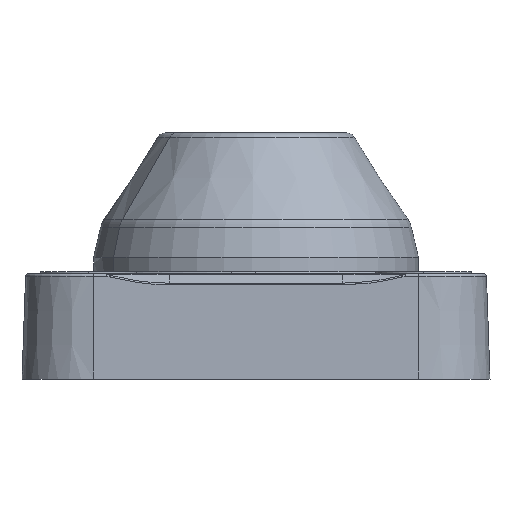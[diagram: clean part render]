
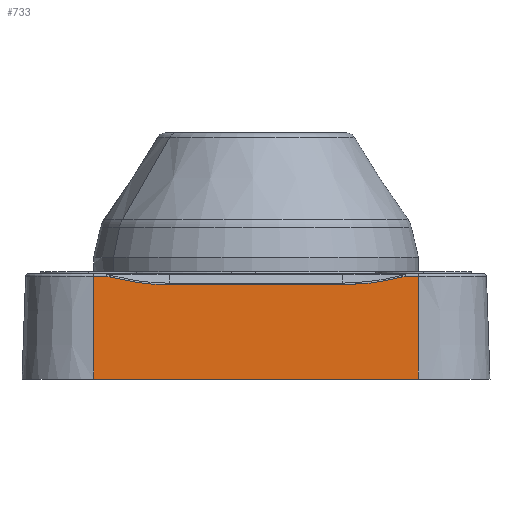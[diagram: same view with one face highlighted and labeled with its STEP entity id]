
A CAD part, left-side view. The second image highlights one B-rep face of the part: STEP entity #733.
In plain terms, the highlighted planar face has unit normal (-0.999, 0, 0.035).
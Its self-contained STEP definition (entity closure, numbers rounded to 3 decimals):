
#133=CARTESIAN_POINT('Vertex',(-48.965,-34.,1.)) ;
#136=CARTESIAN_POINT('Line Origine',(-48.965,0.,1.)) ;
#140=CARTESIAN_POINT('Vertex',(-48.965,34.,1.)) ;
#635=CARTESIAN_POINT('Vertex',(-48.214,-34.,22.517)) ;
#638=CARTESIAN_POINT('Line Origine',(-17491.248,-34.,-499480.642)) ;
#650=CARTESIAN_POINT('Axis2P3D Location',(-49.,0.,0.)) ;
#655=CARTESIAN_POINT('Line Origine',(-48.214,-32.618,22.517)) ;
#659=CARTESIAN_POINT('Vertex',(-48.214,-31.236,22.517)) ;
#663=CARTESIAN_POINT('Control Point',(-48.214,-31.236,22.517)) ;
#664=CARTESIAN_POINT('Control Point',(-48.215,-31.087,22.487)) ;
#665=CARTESIAN_POINT('Control Point',(-48.216,-30.938,22.455)) ;
#666=CARTESIAN_POINT('Control Point',(-48.217,-30.789,22.42)) ;
#667=CARTESIAN_POINT('Control Point',(-48.218,-30.641,22.384)) ;
#668=CARTESIAN_POINT('Control Point',(-48.22,-30.493,22.346)) ;
#669=CARTESIAN_POINT('Vertex',(-48.22,-30.493,22.346)) ;
#673=CARTESIAN_POINT('Control Point',(-48.276,-18.101,20.731)) ;
#674=CARTESIAN_POINT('Control Point',(-48.276,-20.602,20.731)) ;
#675=CARTESIAN_POINT('Control Point',(-48.27,-23.102,20.898)) ;
#676=CARTESIAN_POINT('Control Point',(-48.259,-25.589,21.233)) ;
#677=CARTESIAN_POINT('Control Point',(-48.241,-28.055,21.721)) ;
#678=CARTESIAN_POINT('Control Point',(-48.22,-30.493,22.346)) ;
#679=CARTESIAN_POINT('Vertex',(-48.276,-18.101,20.731)) ;
#682=CARTESIAN_POINT('Line Origine',(-48.276,0.,20.731)) ;
#686=CARTESIAN_POINT('Vertex',(-48.276,18.101,20.731)) ;
#690=CARTESIAN_POINT('Control Point',(-48.22,30.493,22.346)) ;
#691=CARTESIAN_POINT('Control Point',(-48.241,28.055,21.721)) ;
#692=CARTESIAN_POINT('Control Point',(-48.259,25.589,21.233)) ;
#693=CARTESIAN_POINT('Control Point',(-48.27,23.102,20.898)) ;
#694=CARTESIAN_POINT('Control Point',(-48.276,20.602,20.731)) ;
#695=CARTESIAN_POINT('Control Point',(-48.276,18.101,20.731)) ;
#696=CARTESIAN_POINT('Vertex',(-48.22,30.493,22.346)) ;
#700=CARTESIAN_POINT('Control Point',(-48.22,30.493,22.346)) ;
#701=CARTESIAN_POINT('Control Point',(-48.218,30.641,22.384)) ;
#702=CARTESIAN_POINT('Control Point',(-48.217,30.789,22.42)) ;
#703=CARTESIAN_POINT('Control Point',(-48.216,30.938,22.455)) ;
#704=CARTESIAN_POINT('Control Point',(-48.215,31.087,22.487)) ;
#705=CARTESIAN_POINT('Control Point',(-48.214,31.236,22.517)) ;
#706=CARTESIAN_POINT('Vertex',(-48.214,31.236,22.517)) ;
#709=CARTESIAN_POINT('Line Origine',(-48.214,32.618,22.517)) ;
#713=CARTESIAN_POINT('Vertex',(-48.214,34.,22.517)) ;
#716=CARTESIAN_POINT('Line Origine',(-48.589,34.,11.759)) ;
#137=DIRECTION('Vector Direction',(0.,-1.,0.)) ;
#639=DIRECTION('Vector Direction',(-0.035,0.,-0.999)) ;
#651=DIRECTION('Axis2P3D Direction',(0.999,0.,-0.035)) ;
#652=DIRECTION('Axis2P3D XDirection',(0.,-1.,0.)) ;
#656=DIRECTION('Vector Direction',(0.,-1.,0.)) ;
#683=DIRECTION('Vector Direction',(0.,1.,0.)) ;
#710=DIRECTION('Vector Direction',(0.,-1.,0.)) ;
#717=DIRECTION('Vector Direction',(-0.035,0.,-0.999)) ;
#653=AXIS2_PLACEMENT_3D('Plane Axis2P3D',#650,#651,#652) ;
#722=ORIENTED_EDGE('',*,*,#142,.T.) ;
#723=ORIENTED_EDGE('',*,*,#642,.T.) ;
#724=ORIENTED_EDGE('',*,*,#661,.F.) ;
#725=ORIENTED_EDGE('',*,*,#671,.T.) ;
#726=ORIENTED_EDGE('',*,*,#681,.T.) ;
#727=ORIENTED_EDGE('',*,*,#688,.T.) ;
#728=ORIENTED_EDGE('',*,*,#698,.T.) ;
#729=ORIENTED_EDGE('',*,*,#708,.T.) ;
#730=ORIENTED_EDGE('',*,*,#715,.F.) ;
#731=ORIENTED_EDGE('',*,*,#720,.F.) ;
#138=VECTOR('Line Direction',#137,1.) ;
#640=VECTOR('Line Direction',#639,1.) ;
#657=VECTOR('Line Direction',#656,1.) ;
#684=VECTOR('Line Direction',#683,1.) ;
#711=VECTOR('Line Direction',#710,1.) ;
#718=VECTOR('Line Direction',#717,1.) ;
#733=ADVANCED_FACE('PartBody',(#732),#654,.F.) ;
#662=B_SPLINE_CURVE_WITH_KNOTS('',5,(#663,#664,#665,#666,#667,#668),.UNSPECIFIED.,.F.,.U.,(6,6),(0.,1.079),.UNSPECIFIED.) ;
#672=B_SPLINE_CURVE_WITH_KNOTS('',5,(#673,#674,#675,#676,#677,#678),.UNSPECIFIED.,.F.,.U.,(6,6),(0.,17.734),.UNSPECIFIED.) ;
#689=B_SPLINE_CURVE_WITH_KNOTS('',5,(#690,#691,#692,#693,#694,#695),.UNSPECIFIED.,.F.,.U.,(6,6),(0.,17.734),.UNSPECIFIED.) ;
#699=B_SPLINE_CURVE_WITH_KNOTS('',5,(#700,#701,#702,#703,#704,#705),.UNSPECIFIED.,.F.,.U.,(6,6),(0.,1.079),.UNSPECIFIED.) ;
#142=EDGE_CURVE('',#141,#134,#139,.T.) ;
#642=EDGE_CURVE('',#134,#636,#641,.F.) ;
#661=EDGE_CURVE('',#660,#636,#658,.T.) ;
#671=EDGE_CURVE('',#660,#670,#662,.T.) ;
#681=EDGE_CURVE('',#670,#680,#672,.F.) ;
#688=EDGE_CURVE('',#680,#687,#685,.T.) ;
#698=EDGE_CURVE('',#687,#697,#689,.F.) ;
#708=EDGE_CURVE('',#697,#707,#699,.T.) ;
#715=EDGE_CURVE('',#714,#707,#712,.T.) ;
#720=EDGE_CURVE('',#141,#714,#719,.F.) ;
#721=EDGE_LOOP('',(#722,#723,#724,#725,#726,#727,#728,#729,#730,#731)) ;
#732=FACE_OUTER_BOUND('',#721,.T.) ;
#139=LINE('Line',#136,#138) ;
#641=LINE('Line',#638,#640) ;
#658=LINE('Line',#655,#657) ;
#685=LINE('Line',#682,#684) ;
#712=LINE('Line',#709,#711) ;
#719=LINE('Line',#716,#718) ;
#654=PLANE('',#653) ;
#134=VERTEX_POINT('',#133) ;
#141=VERTEX_POINT('',#140) ;
#636=VERTEX_POINT('',#635) ;
#660=VERTEX_POINT('',#659) ;
#670=VERTEX_POINT('',#669) ;
#680=VERTEX_POINT('',#679) ;
#687=VERTEX_POINT('',#686) ;
#697=VERTEX_POINT('',#696) ;
#707=VERTEX_POINT('',#706) ;
#714=VERTEX_POINT('',#713) ;
